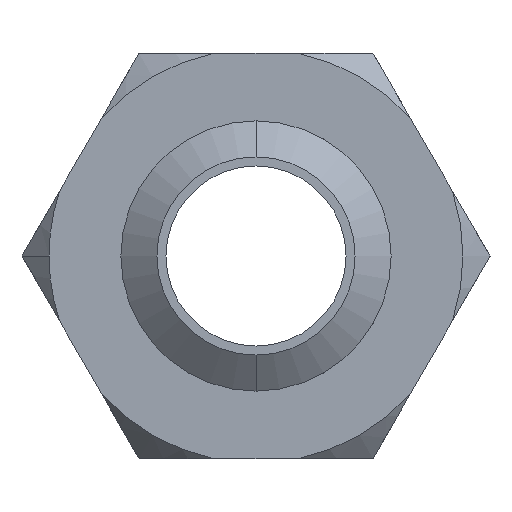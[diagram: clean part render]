
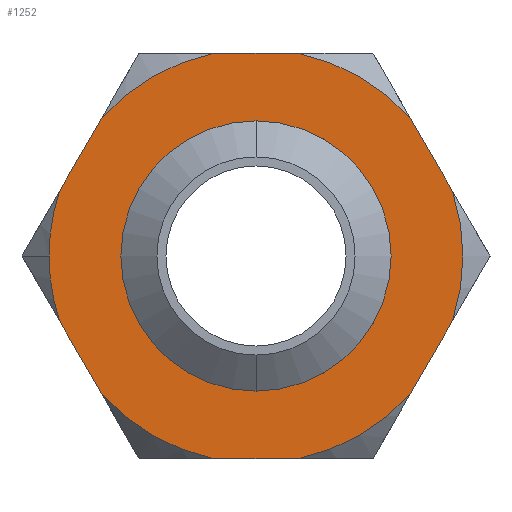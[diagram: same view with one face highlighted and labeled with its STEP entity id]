
A CAD part, front view. The second image highlights one B-rep face of the part: STEP entity #1252.
In plain terms, the highlighted planar face has unit normal (0, -1, 0).
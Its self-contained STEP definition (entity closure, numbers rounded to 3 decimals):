
#2 = VERTEX_POINT ( 'NONE', #1176 ) ;
#57 = CARTESIAN_POINT ( 'NONE',  ( 1.299, -2., -2.25 ) ) ;
#97 = CIRCLE ( 'NONE', #392, 2.298 ) ;
#137 = LINE ( 'NONE', #1566, #436 ) ;
#138 = AXIS2_PLACEMENT_3D ( 'NONE', #1187, #260, #1060 ) ;
#146 = CARTESIAN_POINT ( 'NONE',  ( 0., -2., 0. ) ) ;
#147 = ORIENTED_EDGE ( 'NONE', *, *, #1577, .T. ) ;
#155 = CARTESIAN_POINT ( 'NONE',  ( 2.182, -2., 0.72 ) ) ;
#177 = CIRCLE ( 'NONE', #1421, 2.298 ) ;
#192 = VERTEX_POINT ( 'NONE', #430 ) ;
#231 = AXIS2_PLACEMENT_3D ( 'NONE', #800, #1575, #672 ) ;
#246 = ORIENTED_EDGE ( 'NONE', *, *, #586, .F. ) ;
#260 = DIRECTION ( 'NONE',  ( 0., 1., 0. ) ) ;
#269 = CIRCLE ( 'NONE', #1674, 2.298 ) ;
#282 = CARTESIAN_POINT ( 'NONE',  ( 0., -2., -1. ) ) ;
#299 = DIRECTION ( 'NONE',  ( 0., -1., 0. ) ) ;
#311 = VECTOR ( 'NONE', #1171, 1000. ) ;
#377 = EDGE_CURVE ( 'NONE', #1085, #763, #177, .T. ) ;
#385 = DIRECTION ( 'NONE',  ( 0.5, 0., -0.866 ) ) ;
#392 = AXIS2_PLACEMENT_3D ( 'NONE', #1317, #917, #786 ) ;
#394 = DIRECTION ( 'NONE',  ( -1., 0., 0. ) ) ;
#401 = CIRCLE ( 'NONE', #813, 1. ) ;
#407 = VERTEX_POINT ( 'NONE', #408 ) ;
#408 = CARTESIAN_POINT ( 'NONE',  ( -2.298, -2., 0. ) ) ;
#421 = VECTOR ( 'NONE', #1292, 1000. ) ;
#422 = ORIENTED_EDGE ( 'NONE', *, *, #377, .F. ) ;
#430 = CARTESIAN_POINT ( 'NONE',  ( 0.468, -2., 2.25 ) ) ;
#436 = VECTOR ( 'NONE', #665, 1000. ) ;
#438 = EDGE_CURVE ( 'NONE', #952, #626, #137, .T. ) ;
#491 = VERTEX_POINT ( 'NONE', #1683 ) ;
#505 = LINE ( 'NONE', #1154, #421 ) ;
#510 = CIRCLE ( 'NONE', #844, 2.298 ) ;
#526 = LINE ( 'NONE', #57, #886 ) ;
#535 = DIRECTION ( 'NONE',  ( -1., 0., 0. ) ) ;
#537 = VERTEX_POINT ( 'NONE', #1394 ) ;
#538 = DIRECTION ( 'NONE',  ( 1., 0., 0. ) ) ;
#546 = DIRECTION ( 'NONE',  ( 0., 1., 0. ) ) ;
#586 = EDGE_CURVE ( 'NONE', #848, #805, #982, .T. ) ;
#589 = VECTOR ( 'NONE', #385, 1000. ) ;
#596 = ORIENTED_EDGE ( 'NONE', *, *, #1515, .F. ) ;
#606 = EDGE_CURVE ( 'NONE', #407, #2, #97, .T. ) ;
#616 = EDGE_LOOP ( 'NONE', ( #948, #1202, #422, #1535, #596, #1175, #723, #147, #246, #1689, #1648, #825, #1666 ) ) ;
#626 = VERTEX_POINT ( 'NONE', #1164 ) ;
#628 = DIRECTION ( 'NONE',  ( 0., 0., -1. ) ) ;
#630 = EDGE_CURVE ( 'NONE', #491, #407, #510, .T. ) ;
#637 = CIRCLE ( 'NONE', #138, 2.298 ) ;
#645 = ORIENTED_EDGE ( 'NONE', *, *, #928, .F. ) ;
#665 = DIRECTION ( 'NONE',  ( -0.5, 0., 0.866 ) ) ;
#666 = CARTESIAN_POINT ( 'NONE',  ( -1.299, -2., -2.25 ) ) ;
#672 = DIRECTION ( 'NONE',  ( 0., 0., -1. ) ) ;
#684 = CARTESIAN_POINT ( 'NONE',  ( 1.715, -2., -1.53 ) ) ;
#723 = ORIENTED_EDGE ( 'NONE', *, *, #1057, .F. ) ;
#741 = CARTESIAN_POINT ( 'NONE',  ( -0.468, -2., 2.25 ) ) ;
#756 = CIRCLE ( 'NONE', #1006, 2.298 ) ;
#762 = CARTESIAN_POINT ( 'NONE',  ( 0., -2., 0. ) ) ;
#763 = VERTEX_POINT ( 'NONE', #1130 ) ;
#786 = DIRECTION ( 'NONE',  ( -1., 0., 0. ) ) ;
#800 = CARTESIAN_POINT ( 'NONE',  ( 0., -2., 0. ) ) ;
#805 = VERTEX_POINT ( 'NONE', #741 ) ;
#806 = DIRECTION ( 'NONE',  ( 0., 1., 0. ) ) ;
#813 = AXIS2_PLACEMENT_3D ( 'NONE', #1219, #299, #1092 ) ;
#825 = ORIENTED_EDGE ( 'NONE', *, *, #630, .F. ) ;
#832 = EDGE_CURVE ( 'NONE', #1085, #942, #526, .T. ) ;
#843 = VERTEX_POINT ( 'NONE', #1508 ) ;
#844 = AXIS2_PLACEMENT_3D ( 'NONE', #1473, #1208, #535 ) ;
#845 = DIRECTION ( 'NONE',  ( -1., 0., 0. ) ) ;
#848 = VERTEX_POINT ( 'NONE', #1247 ) ;
#861 = LINE ( 'NONE', #1298, #589 ) ;
#871 = CARTESIAN_POINT ( 'NONE',  ( 0., -2., 0. ) ) ;
#886 = VECTOR ( 'NONE', #994, 1000. ) ;
#899 = PLANE ( 'NONE',  #1379 ) ;
#903 = DIRECTION ( 'NONE',  ( 0., -1., 0. ) ) ;
#917 = DIRECTION ( 'NONE',  ( 0., 1., 0. ) ) ;
#928 = EDGE_CURVE ( 'NONE', #1444, #843, #401, .T. ) ;
#942 = VERTEX_POINT ( 'NONE', #1477 ) ;
#948 = ORIENTED_EDGE ( 'NONE', *, *, #1040, .F. ) ;
#952 = VERTEX_POINT ( 'NONE', #155 ) ;
#982 = CIRCLE ( 'NONE', #1564, 2.298 ) ;
#994 = DIRECTION ( 'NONE',  ( 0.5, 0., 0.866 ) ) ;
#1006 = AXIS2_PLACEMENT_3D ( 'NONE', #146, #1313, #394 ) ;
#1040 = EDGE_CURVE ( 'NONE', #537, #1349, #269, .T. ) ;
#1044 = FACE_OUTER_BOUND ( 'NONE', #616, .T. ) ;
#1057 = EDGE_CURVE ( 'NONE', #192, #626, #637, .T. ) ;
#1060 = DIRECTION ( 'NONE',  ( -1., 0., 0. ) ) ;
#1061 = LINE ( 'NONE', #666, #1096 ) ;
#1069 = EDGE_CURVE ( 'NONE', #843, #1444, #1281, .T. ) ;
#1085 = VERTEX_POINT ( 'NONE', #684 ) ;
#1092 = DIRECTION ( 'NONE',  ( 0., 0., -1. ) ) ;
#1096 = VECTOR ( 'NONE', #538, 1000. ) ;
#1124 = EDGE_CURVE ( 'NONE', #491, #1349, #861, .T. ) ;
#1130 = CARTESIAN_POINT ( 'NONE',  ( 0.468, -2., -2.25 ) ) ;
#1154 = CARTESIAN_POINT ( 'NONE',  ( -1.299, -2., 2.25 ) ) ;
#1164 = CARTESIAN_POINT ( 'NONE',  ( 1.715, -2., 1.53 ) ) ;
#1171 = DIRECTION ( 'NONE',  ( -1., 0., 0. ) ) ;
#1173 = LINE ( 'NONE', #1561, #311 ) ;
#1175 = ORIENTED_EDGE ( 'NONE', *, *, #438, .T. ) ;
#1176 = CARTESIAN_POINT ( 'NONE',  ( -2.182, -2., 0.72 ) ) ;
#1187 = CARTESIAN_POINT ( 'NONE',  ( 0., -2., 0. ) ) ;
#1193 = EDGE_CURVE ( 'NONE', #848, #2, #505, .T. ) ;
#1202 = ORIENTED_EDGE ( 'NONE', *, *, #1553, .T. ) ;
#1208 = DIRECTION ( 'NONE',  ( 0., 1., 0. ) ) ;
#1219 = CARTESIAN_POINT ( 'NONE',  ( 0., -2., 0. ) ) ;
#1247 = CARTESIAN_POINT ( 'NONE',  ( -1.715, -2., 1.53 ) ) ;
#1252 = ADVANCED_FACE ( 'NONE', ( #1044, #1344 ), #899, .T. ) ;
#1281 = CIRCLE ( 'NONE', #231, 1. ) ;
#1292 = DIRECTION ( 'NONE',  ( -0.5, 0., -0.866 ) ) ;
#1298 = CARTESIAN_POINT ( 'NONE',  ( -2.598, -2., 0. ) ) ;
#1313 = DIRECTION ( 'NONE',  ( 0., 1., 0. ) ) ;
#1317 = CARTESIAN_POINT ( 'NONE',  ( 0., -2., 0. ) ) ;
#1323 = DIRECTION ( 'NONE',  ( -1., 0., 0. ) ) ;
#1344 = FACE_BOUND ( 'NONE', #1345, .T. ) ;
#1345 = EDGE_LOOP ( 'NONE', ( #645, #1447 ) ) ;
#1349 = VERTEX_POINT ( 'NONE', #1359 ) ;
#1359 = CARTESIAN_POINT ( 'NONE',  ( -1.715, -2., -1.53 ) ) ;
#1379 = AXIS2_PLACEMENT_3D ( 'NONE', #762, #903, #628 ) ;
#1394 = CARTESIAN_POINT ( 'NONE',  ( -0.468, -2., -2.25 ) ) ;
#1421 = AXIS2_PLACEMENT_3D ( 'NONE', #1704, #806, #1580 ) ;
#1444 = VERTEX_POINT ( 'NONE', #282 ) ;
#1447 = ORIENTED_EDGE ( 'NONE', *, *, #1069, .F. ) ;
#1454 = CARTESIAN_POINT ( 'NONE',  ( 0., -2., 0. ) ) ;
#1473 = CARTESIAN_POINT ( 'NONE',  ( 0., -2., 0. ) ) ;
#1477 = CARTESIAN_POINT ( 'NONE',  ( 2.182, -2., -0.72 ) ) ;
#1508 = CARTESIAN_POINT ( 'NONE',  ( 0., -2., 1. ) ) ;
#1515 = EDGE_CURVE ( 'NONE', #952, #942, #756, .T. ) ;
#1535 = ORIENTED_EDGE ( 'NONE', *, *, #832, .T. ) ;
#1553 = EDGE_CURVE ( 'NONE', #537, #763, #1061, .T. ) ;
#1561 = CARTESIAN_POINT ( 'NONE',  ( 1.299, -2., 2.25 ) ) ;
#1564 = AXIS2_PLACEMENT_3D ( 'NONE', #871, #1637, #845 ) ;
#1566 = CARTESIAN_POINT ( 'NONE',  ( 2.598, -2., 0. ) ) ;
#1575 = DIRECTION ( 'NONE',  ( 0., -1., 0. ) ) ;
#1577 = EDGE_CURVE ( 'NONE', #192, #805, #1173, .T. ) ;
#1580 = DIRECTION ( 'NONE',  ( -1., 0., 0. ) ) ;
#1637 = DIRECTION ( 'NONE',  ( 0., 1., 0. ) ) ;
#1648 = ORIENTED_EDGE ( 'NONE', *, *, #606, .F. ) ;
#1666 = ORIENTED_EDGE ( 'NONE', *, *, #1124, .T. ) ;
#1674 = AXIS2_PLACEMENT_3D ( 'NONE', #1454, #546, #1323 ) ;
#1683 = CARTESIAN_POINT ( 'NONE',  ( -2.182, -2., -0.72 ) ) ;
#1689 = ORIENTED_EDGE ( 'NONE', *, *, #1193, .T. ) ;
#1704 = CARTESIAN_POINT ( 'NONE',  ( 0., -2., 0. ) ) ;
